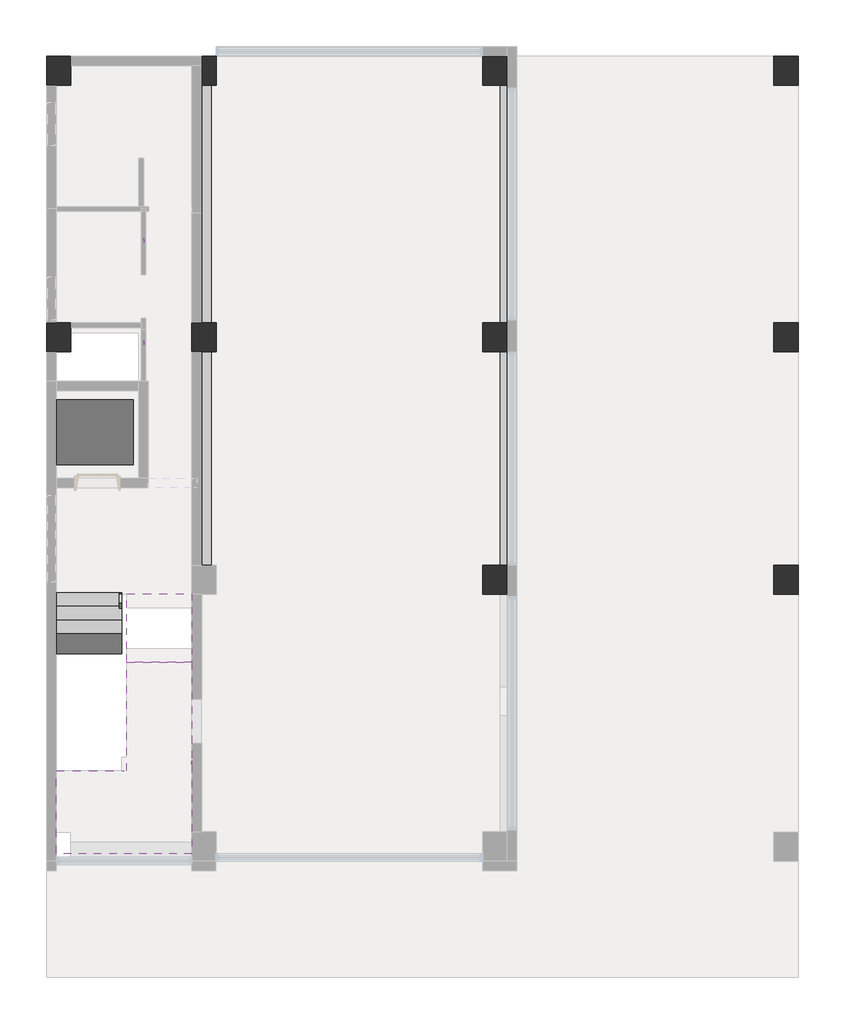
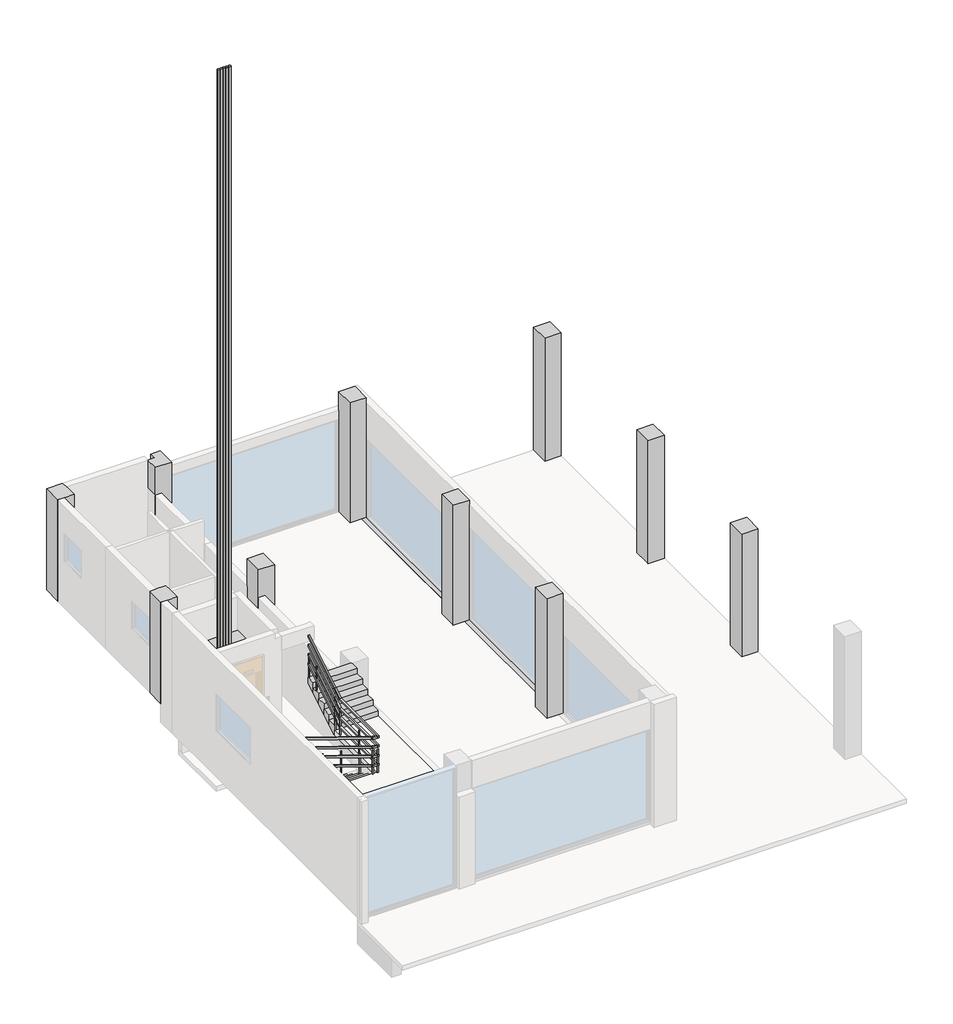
# One storey, part 2 of 2: 10 columns, 7 beams, 4 proxies, 2 stair flights, 1 railing, 1 slab.
"""IFC4 building model written with IfcOpenShell, lengths in millimetres."""

from ifc_helpers import new_model, si_unit, frame, origin, origin_with_axes, place, context, project, spatial, polyline, outline, extrude, faceted_brep, transform, mapped, element, save
from components import generic_models_01ea2401, railing_dfcb49bc

model = new_model("IFC4")

# Units and contexts
model_context = context("Model", 3, world=origin())
ifc_project = project(units=[si_unit("LENGTHUNIT", "METRE", prefix="MILLI")], contexts=[model_context])

# Site, building, storey
site = spatial("IfcSite", under=ifc_project)
building = spatial("IfcBuilding", under=site)
storey = spatial("IfcBuildingStorey", under=building, Name="1층", Elevation=0.0)

# Beams
placement = place(None, origin())
element("IfcBeam", 1, ObjectType="BM100-구조 보 : BM100-구조 보 400x900", at=placement, inside=storey, context=model_context, shape_type="SweptSolid", body=[
    extrude(outline(polyline([(0.0, 9250.0), (0.0, 9100.0), (-150.0, 9100.0), (-150.0, 8850.0), (-900.0, 8850.0), (-900.0, 9250.0), (0.0, 9250.0)])), frame((0.0, 5800.0, 0.0), z_axis=(0.0, 1.0, 0.0), x_axis=(0.0, 0.0, 1.0)), (0.0, 0.0, 1.0), 4400.0),
])
element("IfcBeam", 2, ObjectType="BM100-구조 보 : BM100-구조 보 400x900", at=placement, inside=storey, context=model_context, shape_type="SweptSolid", body=[
    extrude(outline(polyline([(-150.0, 9100.0), (-150.0, 8850.0), (-900.0, 8850.0), (-900.0, 9250.0), (0.0, 9250.0), (0.0, 9100.0), (-150.0, 9100.0)])), frame((0.0, 10800.0, 0.0), z_axis=(0.0, 1.0, 0.0), x_axis=(0.0, 0.0, 1.0)), (0.0, 0.0, 1.0), 4900.0),
])
element("IfcBeam", 3, ObjectType="BM100-구조 보 : BM100-구조 보 400x900", at=placement, inside=storey, context=model_context, shape_type="Brep", body=[
    faceted_brep([(2750.0, 5800.0, 600.0), (3150.0, 5800.0, 600.0), (3150.0, 10200.0, 600.0), (2750.0, 10200.0, 600.0), (3150.0, 5800.0, 0.0), (3150.0, 5800.0, -150.0), (3150.0, 5800.0, -300.0), (3150.0, 10200.0, -300.0), (3150.0, 10200.0, -150.0), (3150.0, 10200.0, 0.0), (2950.0, 5800.0, -300.0), (2750.0, 5800.0, -300.0), (2750.0, 10200.0, -300.0), (2950.0, 10200.0, -300.0)], [[[0, 1, 2, 3]], [[1, 4, 5, 6, 7, 8, 9, 2]], [[6, 10, 11, 12, 13, 7]], [[11, 0, 3, 12]], [[1, 0, 11, 10, 6, 5, 4]], [[3, 2, 9, 8, 7, 13, 12]]]),
])
element("IfcBeam", 4, ObjectType="BM100-구조 보 : BM100-구조 보 400x900", at=placement, inside=storey, context=model_context, shape_type="Brep", body=[
    faceted_brep([(2750.0, 10800.0, 600.0), (3150.0, 10800.0, 600.0), (3150.0, 15700.0, 600.0), (2750.0, 15700.0, 600.0), (3150.0, 10800.0, 0.0), (3150.0, 10800.0, -150.0), (3150.0, 10800.0, -300.0), (3150.0, 15700.0, -300.0), (3150.0, 15700.0, -150.0), (3150.0, 15700.0, 0.0), (2750.0, 10800.0, -300.0), (2750.0, 15700.0, -300.0)], [[[0, 1, 2, 3]], [[1, 4, 5, 6, 7, 8, 9, 2]], [[6, 10, 11, 7]], [[10, 0, 3, 11]], [[1, 0, 10, 6, 5, 4]], [[3, 2, 9, 8, 7, 11]]]),
])
element("IfcBeam", 5, ObjectType="BM100-구조 보 : BM100-구조 보 400x600", at=placement, inside=storey, context=model_context, shape_type="Brep", body=[
    faceted_brep([(8750.0, 10300.0, -600.0), (8750.0, 10300.0, -150.0), (5963.2625647, 10300.0, -150.0), (5663.2625647, 10300.0, -150.0), (3250.0, 10300.0, -150.0), (3250.0, 10300.0, -600.0), (5663.2625647, 10300.0, -600.0), (5963.2625647, 10300.0, -600.0), (8750.0, 10700.0, -600.0), (3250.0, 10700.0, -600.0), (8750.0, 10700.0, -150.0), (3250.0, 10700.0, -150.0)], [[[0, 1, 2, 3, 4, 5, 6, 7]], [[8, 0, 7, 6, 5, 9]], [[10, 8, 9, 11]], [[4, 3, 2, 1, 10, 11]], [[0, 8, 10, 1]], [[5, 4, 11, 9]]]),
])
element("IfcBeam", 6, ObjectType="BM100-구조 보 : BM100-구조 보 300x600", at=placement, inside=storey, context=model_context, shape_type="SweptSolid", body=[
    extrude(outline(polyline([(5963.2625647, 5700.0), (5663.2625647, 5700.0), (5663.2625647, 10300.0), (5963.2625647, 10300.0), (5963.2625647, 5700.0)])), frame((0.0, 0.0, -600.0), z_axis=(0.0, 0.0, 1.0), x_axis=(1.0, 0.0, 0.0)), (0.0, 0.0, 1.0), 450.0),
])
element("IfcBeam", 7, ObjectType="BM100-구조 보 : BM100-구조 보 400x600", at=placement, inside=storey, context=model_context, shape_type="Brep", body=[
    faceted_brep([(3250.0, 15900.0, -150.0), (3250.0, 15900.0, -600.0), (8750.0, 15900.0, -600.0), (8750.0, 15900.0, -150.0), (3250.0, 16100.0, -600.0), (3250.0, 16300.0, -600.0), (8750.0, 16300.0, -600.0), (8750.0, 16100.0, -600.0), (3250.0, 16300.0, -150.0), (8750.0, 16300.0, -150.0)], [[[0, 1, 2, 3]], [[1, 4, 5, 6, 7, 2]], [[5, 8, 9, 6]], [[0, 3, 9, 8]], [[5, 4, 1, 0, 8]], [[3, 2, 7, 6, 9]]]),
])

# Proxies
generic_models_shape = generic_models_01ea2401(model_context)
element("IfcBuildingElementProxy", 8, Name="EE112-승강기 리프트카 : EE112-승객용 엘리베이터 (13인승) 1600x1350", ObjectType="EE112-승강기 리프트카 : EE112-승객용 엘리베이터 (13인승) 1600x1350", at=placement, inside=storey, context=model_context, shape_type="MappedRepresentation", body=[
    mapped(generic_models_shape, transform((740.0, 8544.998526, 600.0), x_axis=(1.0, 0.0, 0.0), y_axis=(0.0, 1.0, 0.0), z_axis=(0.0, 0.0, 1.0))),
])
element("IfcBuildingElementProxy", 9, Name="600 mm Arial", ObjectType="600 mm Arial", at=placement, inside=storey, context=model_context, shape_type="SweptSolid", body=[
    extrude(outline(polyline([(10298.1810026, 2019.9073718), (10301.0329701, 2019.1519858), (10302.0966769, 2017.4408053), (10301.1871305, 2015.1592313), (10298.5664036, 2013.9876122), (10253.4590692, 2013.9876122), (10249.8208836, 2017.4408053), (10253.4590692, 2019.9073718), (10298.1810026, 2019.9073718)])), frame((1760.0, 0.0, 0.0), z_axis=(1.0, 0.0, 0.0), x_axis=(0.0, 1.0, 0.0)), (0.0, 0.0, 1.0), 10.0),
    extrude(outline(polyline([(10288.5151452, 2030.7602642), (10292.230411, 2028.2936978), (10288.7001377, 2024.8405047), (10262.3387085, 2024.8405047), (10258.7005229, 2028.2936978), (10262.3387085, 2030.7602642), (10288.5151452, 2030.7602642)])), frame((1760.0, 0.0, 0.0), z_axis=(1.0, 0.0, 0.0), x_axis=(0.0, 1.0, 0.0)), (0.0, 0.0, 1.0), 10.0),
    extrude(outline(polyline([(10276.1052326, 2009.0544793), (10292.4462355, 2004.3217548), (10298.1655866, 1993.9005115), (10292.4616516, 1982.5234736), (10279.4196813, 1978.5039408), (10279.4196813, 1965.6429093), (10289.2705312, 1966.9224406), (10301.4337871, 1970.5760422), (10305.9969351, 1969.1885986), (10303.9774338, 1964.7487789), (10279.296353, 1959.7231497), (10249.204242, 1958.7365232), (10246.0439537, 1959.7539818), (10244.8877507, 1962.2359643), (10245.8435452, 1963.9779769), (10248.7263448, 1964.6562827), (10258.7776032, 1964.7487789), (10271.5266686, 1965.1033479), (10271.5266686, 1978.8610568), (10259.3634127, 1982.5234736), (10253.76739, 1993.9005115), (10259.3634127, 2004.3217548), (10276.1052326, 2009.0544793)]), holes=[polyline([(10276.1052326, 2003.1347197), (10264.9286033, 2000.1440079), (10261.6604027, 1993.9005115), (10264.9440193, 1986.6858045), (10276.1052326, 1983.4021879), (10286.9581251, 1986.6858045), (10290.2725738, 1993.9005115), (10286.9889572, 2000.1594239), (10276.1052326, 2003.1347197)])]), frame((1760.0, 0.0, 0.0), z_axis=(1.0, 0.0, 0.0), x_axis=(0.0, 1.0, 0.0)), (0.0, 0.0, 1.0), 10.0),
    extrude(outline(polyline([(10315.9248652, 1995.241707), (10325.0974093, 1995.241707), (10327.7181361, 1994.5325691), (10328.7355948, 1992.8213886), (10327.9647928, 1990.4935665), (10325.5753065, 1989.3219475), (10315.9248652, 1989.3219475), (10315.9248652, 1956.5320294), (10314.5528376, 1953.7879742), (10311.9321107, 1952.8167636), (10309.2651357, 1953.8188062), (10308.0318525, 1956.6707737), (10308.0318525, 2031.053169), (10309.2805517, 2033.0572543), (10311.9321107, 2033.720144), (10314.5220055, 2033.0418382), (10315.9248652, 2031.1302492), (10315.9248652, 1995.241707)])), frame((1760.0, 0.0, 0.0), z_axis=(1.0, 0.0, 0.0), x_axis=(0.0, 1.0, 0.0)), (0.0, 0.0, 1.0), 10.0),
    extrude(outline(polyline([(10414.5875242, 2011.0277324), (10423.7600683, 2011.0277324), (10426.3807952, 2010.3494267), (10427.3982539, 2008.6074141), (10426.6120358, 2006.2333439), (10424.1454693, 2005.1079729), (10414.5875242, 2005.1079729), (10414.5875242, 1987.1945339), (10413.2154966, 1984.2963183), (10410.5947697, 1983.4021879), (10407.9277947, 1984.2963183), (10406.6945115, 1987.256198), (10406.6945115, 2031.1456653), (10410.5947697, 2033.720144), (10414.5875242, 2031.2844096), (10414.5875242, 2011.0277324)])), frame((1760.0, 0.0, 0.0), z_axis=(1.0, 0.0, 0.0), x_axis=(0.0, 1.0, 0.0)), (0.0, 0.0, 1.0), 10.0),
    extrude(outline(polyline([(10384.048348, 1982.4155613), (10407.6811381, 1978.1915662), (10413.6008976, 1973.5783161), (10415.5741508, 1967.9707314), (10413.6008976, 1961.8544173), (10407.6811381, 1957.1332549), (10384.048348, 1952.8167636), (10360.3076457, 1957.1332549), (10354.3994482, 1961.8467093), (10352.430049, 1967.9707314), (10354.3994482, 1973.5783161), (10360.3076457, 1978.1915662), (10384.048348, 1982.4155613)]), holes=[polyline([(10384.048348, 1976.4958018), (10365.5645155, 1973.9521551), (10360.3230618, 1968.0169795), (10365.5645155, 1961.4343302), (10384.048348, 1958.7365232), (10402.331772, 1961.4343302), (10407.6811381, 1968.0169795), (10402.331772, 1973.9521551), (10384.048348, 1976.4958018)])]), frame((1760.0, 0.0, 0.0), z_axis=(1.0, 0.0, 0.0), x_axis=(0.0, 1.0, 0.0)), (0.0, 0.0, 1.0), 10.0),
    extrude(outline(polyline([(10395.9803634, 2031.7468908), (10399.3564762, 2029.3265725), (10395.9803634, 2025.8271313), (10378.0823404, 2025.8271313), (10378.0823404, 2023.8692942), (10379.7742508, 2014.4886335), (10384.8499821, 2006.7266571), (10399.5723008, 1997.2149602), (10401.7767946, 1995.7196043), (10401.5301379, 1993.2222057), (10399.279396, 1991.3568648), (10395.9186992, 1991.5726894), (10381.7976061, 2000.2981683), (10373.9970897, 2011.4285495), (10366.5973902, 1999.7431908), (10351.5821668, 1990.3239901), (10348.6531191, 1990.4627344), (10346.6336178, 1992.3434914), (10346.3869612, 1994.7175616), (10348.591455, 1996.2283336), (10363.853335, 2006.3875043), (10368.6053295, 2014.1726047), (10370.1893277, 2023.6534696), (10370.1893277, 2025.8271313), (10352.2913047, 2025.8271313), (10348.7301993, 2029.3265725), (10352.3838009, 2031.7468908), (10395.9803634, 2031.7468908)])), frame((1760.0, 0.0, 0.0), z_axis=(1.0, 0.0, 0.0), x_axis=(0.0, 1.0, 0.0)), (0.0, 0.0, 1.0), 10.0),
    extrude(outline(polyline([(10516.210063, 1994.9488022), (10514.8380354, 1992.1739149), (10512.2635567, 1991.2952006), (10509.5503335, 1992.189331), (10508.3170503, 1994.9488022), (10508.3170503, 2031.053169), (10509.5503335, 2033.0572543), (10512.2635567, 2033.720144), (10514.8226194, 2033.0572543), (10516.210063, 2031.1610813), (10516.210063, 1994.9488022)])), frame((1760.0, 0.0, 0.0), z_axis=(1.0, 0.0, 0.0), x_axis=(0.0, 1.0, 0.0)), (0.0, 0.0, 1.0), 10.0),
    extrude(outline(polyline([(10506.5442056, 1987.3486943), (10513.6510003, 1985.4525213), (10516.210063, 1980.2264836), (10516.210063, 1976.1412328), (10513.7589126, 1970.6377064), (10507.5924964, 1968.6027891), (10462.4234978, 1968.6027891), (10460.3577484, 1968.1094758), (10459.9723474, 1966.3674632), (10459.9723474, 1962.4363729), (10460.4194125, 1960.3243753), (10462.3001695, 1959.7231497), (10514.2676419, 1959.7231497), (10518.1679002, 1957.3028314), (10517.2737698, 1954.9133451), (10514.6376269, 1953.8033902), (10460.3885805, 1953.8033902), (10454.484237, 1955.9462198), (10452.0793346, 1961.7888992), (10452.0793346, 1967.5236662), (10454.3917407, 1972.6417917), (10460.2344201, 1974.5225486), (10505.6809074, 1974.5225486), (10507.7466568, 1975.0775261), (10508.3170503, 1976.942867), (10508.3170503, 1979.4402655), (10507.8545691, 1980.9664535), (10505.6038272, 1981.4289347), (10455.9179287, 1981.4289347), (10452.0793346, 1984.8975438), (10455.9333448, 1987.3486943), (10506.5442056, 1987.3486943)])), frame((1760.0, 0.0, 0.0), z_axis=(1.0, 0.0, 0.0), x_axis=(0.0, 1.0, 0.0)), (0.0, 0.0, 1.0), 10.0),
    extrude(outline(polyline([(10465.8921069, 2028.8949233), (10467.1562222, 2031.0840011), (10469.7923652, 2031.7468908), (10472.397676, 2031.0840011), (10473.7851196, 2028.8949233), (10473.0297337, 2023.1909884), (10471.3493852, 2017.7491261), (10484.9000848, 2008.576582), (10495.5371527, 1996.4749902), (10496.2925387, 1994.3167446), (10494.8280149, 1991.8347621), (10492.1302078, 1991.1872884), (10489.3399045, 1992.8984688), (10479.7511273, 2004.1367623), (10468.9444829, 2012.2610157), (10461.5139514, 2001.346459), (10449.551104, 1990.1389976), (10446.498728, 1989.3681956), (10444.217154, 1990.8173034), (10443.5696803, 1993.3147019), (10445.5429335, 1995.226291), (10461.1439664, 2012.9547375), (10465.8921069, 2028.8949233)])), frame((1760.0, 0.0, 0.0), z_axis=(1.0, 0.0, 0.0), x_axis=(0.0, 1.0, 0.0)), (0.0, 0.0, 1.0), 10.0),
    extrude(outline(polyline([(10557.0163222, 2037.3429135), (10559.7603774, 2038.5761968), (10562.4736005, 2038.0982995), (10564.1539489, 2036.387119), (10563.5373073, 2033.4580713), (10553.8252018, 2014.5888378), (10550.7419937, 1993.7463511), (10553.547713, 1972.379719), (10563.3831469, 1954.0654629), (10564.4622697, 1951.3984879), (10563.0748261, 1948.6544327), (10560.1611944, 1947.636974), (10557.0934024, 1949.3173224), (10545.9784372, 1969.9902327), (10542.848981, 1993.7463511), (10546.1788457, 2016.1612739), (10557.0163222, 2037.3429135)])), frame((1760.0, 0.0, 0.0), z_axis=(1.0, 0.0, 0.0), x_axis=(0.0, 1.0, 0.0)), (0.0, 0.0, 1.0), 10.0),
    extrude(outline(polyline([(10605.1452005, 2030.7602642), (10614.9536563, 2028.1433914), (10622.1490932, 2020.2927728), (10625.7911953, 2010.6850422), (10626.8201534, 2012.3226798), (10629.8262813, 2013.0009856), (10644.4715198, 2013.0009856), (10644.4715198, 2030.9144247), (10645.689387, 2032.964758), (10648.4180261, 2033.720144), (10651.0079209, 2033.0572543), (10652.3645325, 2030.9452567), (10652.3645325, 1956.76327), (10651.038753, 1953.8342223), (10648.4180261, 1952.8167636), (10645.6585549, 1953.8496383), (10644.4715198, 1956.7941021), (10644.4715198, 1980.4423081), (10629.6567049, 1980.4423081), (10626.2490044, 1982.5860838), (10622.1490932, 1971.7630774), (10614.8149119, 1963.4731016), (10605.1452005, 1960.7097763), (10595.3020587, 1963.4731016), (10587.8484031, 1971.7630774), (10583.6976342, 1982.7354442), (10582.3140446, 1996.1358373), (10583.6976342, 2009.328114), (10587.8484031, 2020.2927728), (10595.1633143, 2028.1433914), (10605.1452005, 2030.7602642)]), holes=[polyline([(10626.600073, 1985.5355204), (10629.6567049, 1986.3620677), (10644.4715198, 1986.3620677), (10644.4715198, 2007.0812261), (10629.9187776, 2007.0812261), (10626.3252322, 2009.1815595), (10627.6988677, 1996.1358373), (10626.600073, 1985.5355204)]), polyline([(10605.0989524, 2024.8405047), (10598.8053539, 2022.7516312), (10594.0148193, 2016.4850108), (10590.2070573, 1996.1820855), (10594.0148193, 1975.6325035), (10598.9363902, 1968.8802778), (10605.0989524, 1966.6295359), (10611.1112082, 1968.8802778), (10615.982677, 1975.6325035), (10619.805855, 1996.1820855), (10615.982677, 2016.4850108), (10611.2422445, 2022.7516312), (10605.0989524, 2024.8405047)])]), frame((1760.0, 0.0, 0.0), z_axis=(1.0, 0.0, 0.0), x_axis=(0.0, 1.0, 0.0)), (0.0, 0.0, 1.0), 10.0),
    extrude(outline(polyline([(10683.5203503, 2037.3429135), (10694.2961626, 2016.1612739), (10697.7493556, 1993.7463511), (10694.4965711, 1969.9902327), (10683.4741022, 1949.3173224), (10680.3138139, 1947.636974), (10677.3847662, 1948.6544327), (10676.0127386, 1951.3984879), (10677.1997737, 1954.0654629), (10686.9272952, 1972.379719), (10689.8563429, 1993.7463511), (10686.6498065, 2014.5888378), (10677.0301972, 2033.4426553), (10676.3056433, 2036.387119), (10678.0014078, 2038.0982995), (10680.6837988, 2038.5761968), (10683.5203503, 2037.3429135)])), frame((1760.0, 0.0, 0.0), z_axis=(1.0, 0.0, 0.0), x_axis=(0.0, 1.0, 0.0)), (0.0, 0.0, 1.0), 10.0),
])
element("IfcBuildingElementProxy", 10, Name="600 mm Arial", ObjectType="600 mm Arial", at=placement, inside=storey, context=model_context, shape_type="SweptSolid", body=[
    extrude(outline(polyline([(12413.9709302, 2018.2547444), (12416.8228977, 2017.4993584), (12417.8866044, 2015.788178), (12416.9770581, 2013.506604), (12414.3563312, 2012.3349849), (12369.2489967, 2012.3349849), (12365.6108112, 2015.788178), (12369.2489967, 2018.2547444), (12413.9709302, 2018.2547444)])), frame((1760.0, 0.0, 0.0), z_axis=(1.0, 0.0, 0.0), x_axis=(0.0, 1.0, 0.0)), (0.0, 0.0, 1.0), 10.0),
    extrude(outline(polyline([(12404.3050728, 2029.1076369), (12408.0203385, 2026.6410704), (12404.4900653, 2023.1878774), (12378.1286361, 2023.1878774), (12374.4904505, 2026.6410704), (12378.1286361, 2029.1076369), (12404.3050728, 2029.1076369)])), frame((1760.0, 0.0, 0.0), z_axis=(1.0, 0.0, 0.0), x_axis=(0.0, 1.0, 0.0)), (0.0, 0.0, 1.0), 10.0),
    extrude(outline(polyline([(12391.8951602, 2007.4018519), (12408.2361631, 2002.6691275), (12413.9555141, 1992.2478841), (12408.2515791, 1980.8708463), (12395.2096089, 1976.8513135), (12395.2096089, 1963.990282), (12405.0604588, 1965.2698133), (12417.2237147, 1968.9234149), (12421.7868627, 1967.5359713), (12419.7673614, 1963.0961516), (12395.0862806, 1958.0705224), (12364.9941696, 1957.0838958), (12361.8338813, 1958.1013545), (12360.6776782, 1960.583337), (12361.6334728, 1962.3253496), (12364.5162723, 1963.0036554), (12374.5675307, 1963.0961516), (12387.3165962, 1963.4507205), (12387.3165962, 1977.2084294), (12375.1533403, 1980.8708463), (12369.5573176, 1992.2478841), (12375.1533403, 2002.6691275), (12391.8951602, 2007.4018519)]), holes=[polyline([(12391.8951602, 2001.4820924), (12380.7185309, 1998.4913805), (12377.4503303, 1992.2478841), (12380.7339469, 1985.0331772), (12391.8951602, 1981.7495606), (12402.7480527, 1985.0331772), (12406.0625014, 1992.2478841), (12402.7788848, 1998.5067966), (12391.8951602, 2001.4820924)])]), frame((1760.0, 0.0, 0.0), z_axis=(1.0, 0.0, 0.0), x_axis=(0.0, 1.0, 0.0)), (0.0, 0.0, 1.0), 10.0),
    extrude(outline(polyline([(12431.7147927, 1993.5890797), (12440.8873368, 1993.5890797), (12443.5080637, 1992.8799418), (12444.5255224, 1991.1687613), (12443.7547204, 1988.8409392), (12441.3652341, 1987.6693201), (12431.7147927, 1987.6693201), (12431.7147927, 1954.879402), (12430.3427651, 1952.1353468), (12427.7220383, 1951.1641363), (12425.0550633, 1952.1661789), (12423.82178, 1955.0181464), (12423.82178, 2029.4005417), (12425.0704793, 2031.404627), (12427.7220383, 2032.0675167), (12430.3119331, 2031.3892109), (12431.7147927, 2029.4776219), (12431.7147927, 1993.5890797)])), frame((1760.0, 0.0, 0.0), z_axis=(1.0, 0.0, 0.0), x_axis=(0.0, 1.0, 0.0)), (0.0, 0.0, 1.0), 10.0),
    extrude(outline(polyline([(12530.3774518, 2009.3751051), (12539.5499959, 2009.3751051), (12542.1707227, 2008.6967993), (12543.1881814, 2006.9547868), (12542.4019633, 2004.5807165), (12539.9353969, 2003.4553456), (12530.3774518, 2003.4553456), (12530.3774518, 1985.5419065), (12529.0054242, 1982.6436909), (12526.3846973, 1981.7495606), (12523.7177223, 1982.6436909), (12522.4844391, 1985.6035707), (12522.4844391, 2029.4930379), (12526.3846973, 2032.0675167), (12530.3774518, 2029.6317823), (12530.3774518, 2009.3751051)])), frame((1760.0, 0.0, 0.0), z_axis=(1.0, 0.0, 0.0), x_axis=(0.0, 1.0, 0.0)), (0.0, 0.0, 1.0), 10.0),
    extrude(outline(polyline([(12499.8382756, 1980.762934), (12523.4710656, 1976.5389389), (12529.3908252, 1971.9256888), (12531.3640784, 1966.3181041), (12529.3908252, 1960.20179), (12523.4710656, 1955.4806276), (12499.8382756, 1951.1641363), (12476.0975733, 1955.4806276), (12470.1893758, 1960.194082), (12468.2199766, 1966.3181041), (12470.1893758, 1971.9256888), (12476.0975733, 1976.5389389), (12499.8382756, 1980.762934)]), holes=[polyline([(12499.8382756, 1974.8431745), (12481.3544431, 1972.2995278), (12476.1129893, 1966.3643522), (12481.3544431, 1959.7817029), (12499.8382756, 1957.0838958), (12518.1216996, 1959.7817029), (12523.4710656, 1966.3643522), (12518.1216996, 1972.2995278), (12499.8382756, 1974.8431745)])]), frame((1760.0, 0.0, 0.0), z_axis=(1.0, 0.0, 0.0), x_axis=(0.0, 1.0, 0.0)), (0.0, 0.0, 1.0), 10.0),
    extrude(outline(polyline([(12511.7702909, 2030.0942635), (12515.1464038, 2027.6739452), (12511.7702909, 2024.174504), (12493.8722679, 2024.174504), (12493.8722679, 2022.2166668), (12495.5641784, 2012.8360062), (12500.6399097, 2005.0740298), (12515.3622284, 1995.5623328), (12517.5667221, 1994.0669769), (12517.3200655, 1991.5695784), (12515.0693236, 1989.7042375), (12511.7086268, 1989.920062), (12497.5875337, 1998.6455409), (12489.7870172, 2009.7759222), (12482.3873178, 1998.0905635), (12467.3720944, 1988.6713628), (12464.4430467, 1988.8101071), (12462.4235454, 1990.6908641), (12462.1768887, 1993.0649343), (12464.3813825, 1994.5757063), (12479.6432626, 2004.7348769), (12484.3952571, 2012.5199774), (12485.9792552, 2022.0008423), (12485.9792552, 2024.174504), (12468.0812322, 2024.174504), (12464.5201269, 2027.6739452), (12468.1737285, 2030.0942635), (12511.7702909, 2030.0942635)])), frame((1760.0, 0.0, 0.0), z_axis=(1.0, 0.0, 0.0), x_axis=(0.0, 1.0, 0.0)), (0.0, 0.0, 1.0), 10.0),
    extrude(outline(polyline([(12631.9999906, 1993.2961749), (12630.627963, 1990.5212876), (12628.0534842, 1989.6425733), (12625.3402611, 1990.5367037), (12624.1069779, 1993.2961749), (12624.1069779, 2029.4005417), (12625.3402611, 2031.404627), (12628.0534842, 2032.0675167), (12630.6125469, 2031.404627), (12631.9999906, 2029.508454), (12631.9999906, 1993.2961749)])), frame((1760.0, 0.0, 0.0), z_axis=(1.0, 0.0, 0.0), x_axis=(0.0, 1.0, 0.0)), (0.0, 0.0, 1.0), 10.0),
    extrude(outline(polyline([(12622.3341332, 1985.6960669), (12629.4409279, 1983.799894), (12631.9999906, 1978.5738562), (12631.9999906, 1974.4886055), (12629.5488401, 1968.9850791), (12623.382424, 1966.9501617), (12578.2134254, 1966.9501617), (12576.1476759, 1966.4568484), (12575.7622749, 1964.7148359), (12575.7622749, 1960.7837455), (12576.2093401, 1958.671748), (12578.090097, 1958.0705224), (12630.0575695, 1958.0705224), (12633.9578277, 1955.6502041), (12633.0636974, 1953.2607178), (12630.4275545, 1952.1507629), (12576.178508, 1952.1507629), (12570.2741645, 1954.2935925), (12567.8692622, 1960.1362718), (12567.8692622, 1965.8710389), (12570.1816683, 1970.9891643), (12576.0243476, 1972.8699213), (12621.4708349, 1972.8699213), (12623.5365844, 1973.4248987), (12624.1069779, 1975.2902396), (12624.1069779, 1977.7876382), (12623.6444966, 1979.3138262), (12621.3937547, 1979.7763074), (12571.7078563, 1979.7763074), (12567.8692622, 1983.2449165), (12571.7232723, 1985.6960669), (12622.3341332, 1985.6960669)])), frame((1760.0, 0.0, 0.0), z_axis=(1.0, 0.0, 0.0), x_axis=(0.0, 1.0, 0.0)), (0.0, 0.0, 1.0), 10.0),
    extrude(outline(polyline([(12581.6820345, 2027.242296), (12582.9461498, 2029.4313738), (12585.5822927, 2030.0942635), (12588.1876036, 2029.4313738), (12589.5750472, 2027.242296), (12588.8196612, 2021.538361), (12587.1393128, 2016.0964988), (12600.6900124, 2006.9239547), (12611.3270803, 1994.8223629), (12612.0824663, 1992.6641172), (12610.6179424, 1990.1821347), (12607.9201354, 1989.534661), (12605.129832, 1991.2458415), (12595.5410549, 2002.484135), (12584.7344105, 2010.6083884), (12577.303879, 1999.6938317), (12565.3410316, 1988.4863703), (12562.2886556, 1987.7155682), (12560.0070816, 1989.1646761), (12559.3596079, 1991.6620746), (12561.332861, 1993.5736636), (12576.933894, 2011.3021102), (12581.6820345, 2027.242296)])), frame((1760.0, 0.0, 0.0), z_axis=(1.0, 0.0, 0.0), x_axis=(0.0, 1.0, 0.0)), (0.0, 0.0, 1.0), 10.0),
    extrude(outline(polyline([(12672.8062497, 2035.6902862), (12675.5503049, 2036.9235694), (12678.263528, 2036.4456722), (12679.9438765, 2034.7344917), (12679.3272348, 2031.805444), (12669.6151293, 2012.9362105), (12666.5319212, 1992.0937237), (12669.3376406, 1970.7270916), (12679.1730744, 1952.4128356), (12680.2521973, 1949.7458606), (12678.8647536, 1947.0018054), (12675.951122, 1945.9843467), (12672.8833299, 1947.6646951), (12661.7683647, 1968.3376054), (12658.6389085, 1992.0937237), (12661.9687733, 2014.5086466), (12672.8062497, 2035.6902862)])), frame((1760.0, 0.0, 0.0), z_axis=(1.0, 0.0, 0.0), x_axis=(0.0, 1.0, 0.0)), (0.0, 0.0, 1.0), 10.0),
    extrude(outline(polyline([(12699.0905987, 2027.2577121), (12700.323882, 2029.3388775), (12702.990857, 2030.0942635), (12705.5961678, 2029.4313738), (12706.9836114, 2027.3502083), (12706.9836114, 2003.0082804), (12708.1243984, 1998.9538618), (12711.9629925, 1997.535586), (12730.5547373, 1998.2138918), (12748.3756801, 2000.4492177), (12751.6747128, 2000.4029696), (12753.3088131, 1998.9076136), (12753.0159083, 1996.4718792), (12750.5030937, 1994.6065383), (12731.55678, 1992.3095483), (12709.9434912, 1991.6158265), (12701.9425662, 1994.9456912), (12699.0905987, 2002.9003681), (12699.0905987, 2027.2577121)])), frame((1760.0, 0.0, 0.0), z_axis=(1.0, 0.0, 0.0), x_axis=(0.0, 1.0, 0.0)), (0.0, 0.0, 1.0), 10.0),
    extrude(outline(polyline([(12765.1945803, 2009.3751051), (12774.5675329, 2009.3751051), (12778.0207259, 2006.9547868), (12774.5675329, 2003.4553456), (12765.1945803, 2003.4553456), (12765.1945803, 1991.5233302), (12763.8379687, 1988.6559467), (12761.2018258, 1987.6693201), (12758.5348508, 1988.6559467), (12757.3015675, 1991.4924982), (12757.3015675, 2029.508454), (12761.2018258, 2032.0675167), (12765.1945803, 2029.5392861), (12765.1945803, 2009.3751051)])), frame((1760.0, 0.0, 0.0), z_axis=(1.0, 0.0, 0.0), x_axis=(0.0, 1.0, 0.0)), (0.0, 0.0, 1.0), 10.0),
    extrude(outline(polyline([(12755.574971, 1981.7495606), (12762.5121892, 1979.9150518), (12765.1945803, 1975.0127509), (12765.1945803, 1961.5391315), (12762.5430213, 1955.1877228), (12755.960372, 1953.1373895), (12714.0287419, 1953.1373895), (12706.3207217, 1955.5114597), (12704.0237317, 1962.0170288), (12704.0237317, 1974.6273499), (12706.428634, 1979.7300593), (12712.7800427, 1981.7495606), (12755.574971, 1981.7495606)]), holes=[polyline([(12757.3015675, 1973.5482271), (12756.6540938, 1975.3364877), (12754.0179509, 1975.829801), (12714.81496, 1975.829801), (12712.3483935, 1975.2285755), (12711.9167444, 1973.3632346), (12711.9167444, 1962.5103421), (12712.5025539, 1959.827951), (12715.200361, 1959.057149), (12754.2029434, 1959.057149), (12756.6540938, 1959.7354548), (12757.3015675, 1962.1249411), (12757.3015675, 1973.5482271)])]), frame((1760.0, 0.0, 0.0), z_axis=(1.0, 0.0, 0.0), x_axis=(0.0, 1.0, 0.0)), (0.0, 0.0, 1.0), 10.0),
    extrude(outline(polyline([(12799.3102778, 2035.6902862), (12810.0860901, 2014.5086466), (12813.5392832, 1992.0937237), (12810.2864987, 1968.3376054), (12799.2640297, 1947.6646951), (12796.1037414, 1945.9843467), (12793.1746937, 1947.0018054), (12791.8026661, 1949.7458606), (12792.9897012, 1952.4128356), (12802.7172228, 1970.7270916), (12805.6462705, 1992.0937237), (12802.4397341, 2012.9362105), (12792.8201248, 2031.790028), (12792.0955709, 2034.7344917), (12793.7913353, 2036.4456722), (12796.4737264, 2036.9235694), (12799.3102778, 2035.6902862)])), frame((1760.0, 0.0, 0.0), z_axis=(1.0, 0.0, 0.0), x_axis=(0.0, 1.0, 0.0)), (0.0, 0.0, 1.0), 10.0),
])
element("IfcBuildingElementProxy", 11, Name="600 mm Arial", ObjectType="600 mm Arial", at=placement, inside=storey, context=model_context, shape_type="SweptSolid", body=[
    extrude(outline(polyline([(1693.0107221, 1309.3367163), (1694.3056695, 1315.1485636), (1726.6639385, 1315.1485636), (1726.6639385, 1327.9747092), (1703.4782136, 1328.9459198), (1704.6035846, 1334.8810954), (1748.4622197, 1336.4689475), (1747.2597686, 1345.7339879), (1711.4637226, 1345.7339879), (1706.5691297, 1346.8208187), (1705.2818904, 1351.0525218), (1705.2818904, 1364.0944921), (1706.5691297, 1368.3261952), (1711.4637226, 1369.413026), (1757.7272601, 1368.4572315), (1756.6173051, 1362.5066399), (1714.9014996, 1361.2271085), (1716.181031, 1352.640374), (1751.8999968, 1352.640374), (1754.9832048, 1352.4322575), (1756.8716698, 1351.5920832), (1757.8197563, 1349.9040268), (1758.081829, 1347.1676796), (1758.081829, 1333.6169801), (1757.8197563, 1330.8806329), (1756.8716698, 1329.1540363), (1754.9832048, 1328.2290739), (1751.8999968, 1327.9747092), (1736.5302044, 1327.9747092), (1736.5302044, 1315.1485636), (1770.260501, 1313.9769445), (1769.0580498, 1308.2421774), (1693.0107221, 1309.3367163)])), frame((2730.0, 0.0, 0.0), z_axis=(1.0, 0.0, 0.0), x_axis=(0.0, 1.0, 0.0)), (0.0, 0.0, 1.0), 10.0),
    extrude(outline(polyline([(1596.583389, 1296.4951546), (1597.6933439, 1374.346159), (1606.4496549, 1373.2670362), (1605.3397, 1295.4160318), (1596.583389, 1296.4951546)])), frame((2730.0, 0.0, 0.0), z_axis=(1.0, 0.0, 0.0), x_axis=(0.0, 1.0, 0.0)), (0.0, 0.0, 1.0), 10.0),
    extrude(outline(polyline([(1620.1082667, 1323.7198821), (1621.3107179, 1370.3996526), (1630.0516129, 1369.2434496), (1630.0516129, 1349.6804942), (1649.0287587, 1349.6804942), (1650.2312098, 1370.3996526), (1658.8950246, 1369.39761), (1658.8950246, 1323.9973708), (1657.522997, 1319.3725587), (1652.3740395, 1318.1084433), (1626.6292519, 1318.1084433), (1621.5188344, 1319.5344271), (1620.1082667, 1323.7198821)]), holes=[polyline([(1630.0516129, 1342.7741081), (1630.0516129, 1326.4947694), (1631.6086329, 1325.0148295), (1647.4871546, 1325.0148295), (1649.0287587, 1326.4947694), (1649.0287587, 1342.7741081), (1630.0516129, 1342.7741081)])]), frame((2730.0, 0.0, 0.0), z_axis=(1.0, 0.0, 0.0), x_axis=(0.0, 1.0, 0.0)), (0.0, 0.0, 1.0), 10.0),
])

# Columns
element("IfcColumn", 12, ObjectType="CL100-구조 기둥 : CL100-구조 기둥_500x600", at=placement, inside=storey, context=model_context, shape_type="Brep", body=[
    faceted_brep([(-250.0, 10200.0, 600.0), (-250.0, 10800.0, 600.0), (-50.0, 10800.0, 600.0), (250.0, 10800.0, 600.0), (250.0, 10700.0, 600.0), (250.0, 10200.0, 600.0), (-250.0, 10200.0, 3900.0), (-250.0, 10800.0, 3900.0), (-50.0, 10800.0, 3900.0), (250.0, 10800.0, 3900.0), (250.0, 10800.0, 3750.0), (250.0, 10600.0, 3900.0), (250.0, 10200.0, 3900.0), (-50.0, 10200.0, 3900.0)], [[[0, 1, 2, 3, 4, 5]], [[6, 7, 1, 0]], [[7, 8, 9, 10, 3, 2, 1]], [[9, 11, 12, 5, 4, 3, 10]], [[12, 13, 6, 0, 5]], [[6, 13, 12, 11, 9, 8, 7]]]),
])
element("IfcColumn", 13, ObjectType="CL100-구조 기둥 : CL100-구조 기둥_500x600", at=placement, inside=storey, context=model_context, shape_type="Brep", body=[
    faceted_brep([(2750.0, 10200.0, 600.0), (2750.0, 10800.0, 600.0), (3250.0, 10800.0, 600.0), (3250.0, 10200.0, 600.0), (2750.0, 10200.0, 3900.0), (2750.0, 10800.0, 3900.0), (2750.0, 10800.0, 3750.0), (2750.0, 10800.0, 2850.0), (2750.0, 10200.0, 2850.0), (2750.0, 10200.0, 3750.0), (3250.0, 10800.0, 3900.0), (3250.0, 10800.0, 3750.0), (3250.0, 10200.0, 3900.0), (3250.0, 10200.0, 3750.0)], [[[0, 1, 2, 3]], [[4, 5, 6, 7, 1, 0, 8, 9]], [[5, 10, 11, 2, 1, 7, 6]], [[10, 12, 13, 3, 2, 11]], [[12, 4, 9, 8, 0, 3, 13]], [[4, 12, 10, 5]]]),
])
element("IfcColumn", 14, ObjectType="CL100-구조 기둥 : CL100-구조 기둥_500x600", at=placement, inside=storey, context=model_context, shape_type="Brep", body=[
    faceted_brep([(8750.0, 5200.0, 0.0), (8750.0, 5800.0, 0.0), (9250.0, 5800.0, 0.0), (9250.0, 5200.0, 0.0), (8750.0, 5200.0, 3900.0), (8750.0, 5800.0, 3900.0), (8750.0, 5800.0, 3750.0), (8750.0, 5200.0, 3750.0), (9250.0, 5800.0, 3900.0), (9250.0, 5800.0, 3750.0), (9250.0, 5200.0, 3900.0), (9250.0, 5200.0, 3750.0)], [[[0, 1, 2, 3]], [[4, 5, 6, 1, 0, 7]], [[5, 8, 9, 2, 1, 6]], [[8, 10, 11, 3, 2, 9]], [[10, 4, 7, 0, 3, 11]], [[4, 10, 8, 5]]]),
])
element("IfcColumn", 15, ObjectType="CL100-구조 기둥 : CL100-구조 기둥_500x600", at=placement, inside=storey, context=model_context, shape_type="Brep", body=[
    faceted_brep([(8750.0, 10200.0, 0.0), (8750.0, 10800.0, 0.0), (9250.0, 10800.0, 0.0), (9250.0, 10200.0, 0.0), (8750.0, 10200.0, 3900.0), (8750.0, 10800.0, 3900.0), (8750.0, 10800.0, 3750.0), (8750.0, 10200.0, 3750.0), (9250.0, 10800.0, 3900.0), (9250.0, 10800.0, 3750.0), (9250.0, 10200.0, 3900.0), (9250.0, 10200.0, 3750.0)], [[[0, 1, 2, 3]], [[4, 5, 6, 1, 0, 7]], [[5, 8, 9, 2, 1, 6]], [[8, 10, 11, 3, 2, 9]], [[10, 4, 7, 0, 3, 11]], [[4, 10, 8, 5]]]),
])
element("IfcColumn", 16, ObjectType="CL100-구조 기둥 : CL100-구조 기둥_500x600", at=placement, inside=storey, context=model_context, shape_type="Brep", body=[
    faceted_brep([(14750.0, 5200.0, 3900.0), (14750.0, 5800.0, 3900.0), (14750.0, 5800.0, 3750.0), (14750.0, 5800.0, -100.0), (14750.0, 5200.0, -100.0), (14750.0, 5200.0, 3750.0), (15250.0, 5800.0, 3900.0), (15250.0, 5800.0, 3750.0), (15250.0, 5800.0, -100.0), (15250.0, 5200.0, 3900.0), (15250.0, 5200.0, 3750.0), (15250.0, 5200.0, -100.0)], [[[0, 1, 2, 3, 4, 5]], [[1, 6, 7, 8, 3, 2]], [[6, 9, 10, 11, 8, 7]], [[9, 0, 5, 4, 11, 10]], [[1, 0, 9, 6]], [[4, 3, 8, 11]]]),
])
element("IfcColumn", 17, ObjectType="CL100-구조 기둥 : CL100-구조 기둥_500x600", at=placement, inside=storey, context=model_context, shape_type="Brep", body=[
    faceted_brep([(14750.0, 10200.0, 3900.0), (14750.0, 10800.0, 3900.0), (14750.0, 10800.0, 3750.0), (14750.0, 10800.0, -100.0), (14750.0, 10200.0, -100.0), (14750.0, 10200.0, 3750.0), (15250.0, 10800.0, 3900.0), (15250.0, 10800.0, 3750.0), (15250.0, 10800.0, -100.0), (15250.0, 10200.0, 3900.0), (15250.0, 10200.0, 3750.0), (15250.0, 10200.0, -100.0)], [[[0, 1, 2, 3, 4, 5]], [[1, 6, 7, 8, 3, 2]], [[6, 9, 10, 11, 8, 7]], [[9, 0, 5, 4, 11, 10]], [[1, 0, 9, 6]], [[4, 3, 8, 11]]]),
])
element("IfcColumn", 18, ObjectType="CL100-구조 기둥 : CL100-구조 기둥_500x600", at=placement, inside=storey, context=model_context, shape_type="Brep", body=[
    faceted_brep([(3250.0, 16300.0, 600.0), (3250.0, 15700.0, 600.0), (2750.0, 15700.0, 600.0), (2750.0, 16100.0, 600.0), (2950.0, 16100.0, 600.0), (2950.0, 16300.0, 600.0), (2750.0, 15700.0, 2850.0), (2750.0, 15700.0, 3750.0), (2750.0, 15700.0, 3900.0), (2750.0, 16100.0, 3900.0), (2750.0, 16100.0, 3750.0), (3250.0, 16300.0, 3900.0), (3250.0, 16300.0, 3750.0), (3250.0, 16300.0, 3150.0), (2950.0, 16300.0, 3750.0), (2950.0, 16300.0, 3900.0), (3250.0, 16100.0, 3900.0), (3250.0, 15700.0, 3900.0), (3250.0, 15700.0, 3750.0), (2950.0, 16100.0, 3900.0), (2950.0, 16100.0, 3750.0)], [[[0, 1, 2, 3, 4, 5]], [[2, 6, 7, 8, 9, 10, 3]], [[11, 12, 13, 0, 5, 14, 15]], [[1, 0, 13, 12, 11, 16, 17, 18]], [[2, 1, 18, 17, 8, 7, 6]], [[17, 16, 11, 15, 19, 9, 8]], [[19, 20, 4, 3, 10, 9]], [[4, 20, 19, 15, 14, 5]]]),
])
element("IfcColumn", 19, ObjectType="CL100-구조 기둥 : CL100-구조 기둥_500x600", at=placement, inside=storey, context=model_context, shape_type="SweptSolid", body=[
    extrude(outline(polyline([(8750.0, 15700.0), (8750.0, 16300.0), (9250.0, 16300.0), (9250.0, 15700.0), (8750.0, 15700.0)])), origin_with_axes(), (0.0, 0.0, 1.0), 3900.0),
])
element("IfcColumn", 20, ObjectType="CL100-구조 기둥 : CL100-구조 기둥_500x600", at=placement, inside=storey, context=model_context, shape_type="Brep", body=[
    faceted_brep([(14750.0, 15700.0, 3900.0), (14750.0, 16300.0, 3900.0), (14750.0, 16300.0, 3750.0), (14750.0, 16300.0, 3150.0), (14750.0, 16300.0, -100.0), (14750.0, 15700.0, -100.0), (14750.0, 15700.0, 3750.0), (15250.0, 16300.0, 3900.0), (15250.0, 16300.0, 3750.0), (15250.0, 16300.0, 50.0), (15250.0, 16300.0, -100.0), (15250.0, 15700.0, 3900.0), (15250.0, 15700.0, 3750.0), (15250.0, 15700.0, -100.0)], [[[0, 1, 2, 3, 4, 5, 6]], [[1, 7, 8, 9, 10, 4, 3, 2]], [[7, 11, 12, 13, 10, 9, 8]], [[11, 0, 6, 5, 13, 12]], [[1, 0, 11, 7]], [[5, 4, 10, 13]]]),
])
element("IfcColumn", 21, ObjectType="CL100-구조 기둥 : CL100-구조 기둥_500x600", at=placement, inside=storey, context=model_context, shape_type="Brep", body=[
    faceted_brep([(-250.0, 15700.0, 600.0), (-250.0, 16300.0, 600.0), (250.0, 16300.0, 600.0), (250.0, 16100.0, 600.0), (250.0, 15700.0, 600.0), (-50.0, 15700.0, 600.0), (-250.0, 15700.0, 3900.0), (-250.0, 16300.0, 3900.0), (250.0, 16300.0, 3900.0), (250.0, 16100.0, 3900.0), (250.0, 15700.0, 3900.0), (250.0, 15700.0, 3750.0), (-50.0, 15700.0, 3900.0)], [[[0, 1, 2, 3, 4, 5]], [[6, 7, 1, 0]], [[7, 8, 2, 1]], [[8, 9, 10, 11, 4, 3, 2]], [[10, 12, 6, 0, 5, 4, 11]], [[6, 12, 10, 9, 8, 7]]]),
])

# Railing
railing_shape = railing_dfcb49bc(model_context)
element("IfcRailing", 22, ObjectType="RL780-금속재 난간", at=placement, inside=storey, context=model_context, shape_type="MappedRepresentation", body=[
    mapped(railing_shape, transform((0.0, 0.0, 0.0), x_axis=(1.0, 0.0, 0.0), y_axis=(0.0, 1.0, 0.0), z_axis=(0.0, 0.0, 1.0))),
])

# Slab
element("IfcSlab", 23, ObjectType="일체형 계단참 150mm_철근콘크리트", at=placement, inside=storey, context=model_context, shape_type="Brep", body=[
    faceted_brep([(1300.2430136, 1560.0, 3031.5789474), (-50.0, 1560.0, 3031.5789474), (-50.0, 1234.9626078, 3031.5789474), (-50.0, -150.0, 3031.5789474), (2750.0, -150.0, 3031.5789474), (2750.0, 3800.0, 3031.5789474), (1400.2430136, 3800.0, 3031.5789474), (1400.2430136, 1560.0, 3031.5789474), (1300.2430136, 1560.0, 2881.5789474), (1300.2430136, 1560.0, 2857.8947368), (1300.2430136, 1560.0, 2681.8352985), (-50.0, 1560.0, 2681.8352985), (-50.0, 1560.0, 2857.8947368), (-50.0, 1234.9626078, 2881.5789474), (-50.0, -150.0, 2881.5789474), (2750.0, -150.0, 2881.5789474), (2750.0, 3800.0, 2881.5789474), (1400.2430136, 3800.0, 2881.5789474), (1400.2430136, 1560.0, 2881.5789474), (1300.2430136, 1234.9626078, 2881.5789474)], [[[0, 1, 2, 3, 4, 5, 6, 7]], [[1, 0, 8, 9, 10, 11, 12]], [[1, 12, 11, 13, 14, 3, 2]], [[4, 3, 14, 15]], [[5, 4, 15, 16]], [[6, 5, 16, 17]], [[7, 6, 17, 18]], [[0, 7, 18, 8]], [[13, 19, 8, 18, 17, 16, 15, 14]], [[19, 13, 11, 10]], [[8, 19, 10, 9]]]),
])

# Stair flights
element("IfcStairFlight", 24, ObjectType="일체형 계단진행 150mm_철근콘크리트", at=placement, inside=storey, context=model_context, shape_type="Brep", body=[
    faceted_brep([(1300.2430136, 4951.5789474, 773.6842105), (1300.2430136, 5234.2105263, 773.6842105), (-50.0, 5234.2105263, 773.6842105), (-50.0, 4951.5789474, 773.6842105), (1300.2430136, 4951.5789474, 600.0), (1300.2430136, 5234.2105263, 600.0), (-50.0, 5234.2105263, 600.0), (-50.0, 4951.5789474, 600.0), (1300.2430136, 4668.9473684, 947.3684211), (1300.2430136, 4951.5789474, 947.3684211), (-50.0, 4951.5789474, 947.3684211), (-50.0, 4668.9473684, 947.3684211), (1300.2430136, 4668.9473684, 771.3089828), (1300.2430136, 4947.713804, 600.0), (-50.0, 4947.713804, 600.0), (-50.0, 4668.9473684, 771.3089828), (1300.2430136, 4386.3157895, 1121.0526316), (1300.2430136, 4668.9473684, 1121.0526316), (-50.0, 4668.9473684, 1121.0526316), (-50.0, 4386.3157895, 1121.0526316), (1300.2430136, 4386.3157895, 944.9931933), (-50.0, 4386.3157895, 944.9931933), (1300.2430136, 4103.6842105, 1294.7368421), (1300.2430136, 4386.3157895, 1294.7368421), (-50.0, 4386.3157895, 1294.7368421), (-50.0, 4103.6842105, 1294.7368421), (1300.2430136, 4103.6842105, 1118.6774038), (-50.0, 4103.6842105, 1118.6774038), (1300.2430136, 3821.0526316, 1468.4210526), (1300.2430136, 4103.6842105, 1468.4210526), (-50.0, 4103.6842105, 1468.4210526), (-50.0, 3821.0526316, 1468.4210526), (1300.2430136, 3821.0526316, 1292.3616143), (-50.0, 3821.0526316, 1292.3616143), (1300.2430136, 3538.4210526, 1642.1052632), (1300.2430136, 3821.0526316, 1642.1052632), (-50.0, 3821.0526316, 1642.1052632), (-50.0, 3538.4210526, 1642.1052632), (1300.2430136, 3538.4210526, 1466.0458249), (-50.0, 3538.4210526, 1466.0458249), (1300.2430136, 3255.7894737, 1815.7894737), (1300.2430136, 3538.4210526, 1815.7894737), (-50.0, 3538.4210526, 1815.7894737), (-50.0, 3255.7894737, 1815.7894737), (1300.2430136, 3255.7894737, 1639.7300354), (-50.0, 3255.7894737, 1639.7300354), (1300.2430136, 2973.1578947, 1989.4736842), (1300.2430136, 3255.7894737, 1989.4736842), (-50.0, 3255.7894737, 1989.4736842), (-50.0, 2973.1578947, 1989.4736842), (1300.2430136, 2973.1578947, 1813.4142459), (-50.0, 2973.1578947, 1813.4142459), (1300.2430136, 2690.5263158, 2163.1578947), (1300.2430136, 2973.1578947, 2163.1578947), (-50.0, 2973.1578947, 2163.1578947), (-50.0, 2690.5263158, 2163.1578947), (1300.2430136, 2690.5263158, 1987.0984564), (-50.0, 2690.5263158, 1987.0984564), (1300.2430136, 2407.8947368, 2336.8421053), (1300.2430136, 2690.5263158, 2336.8421053), (-50.0, 2690.5263158, 2336.8421053), (-50.0, 2407.8947368, 2336.8421053), (1300.2430136, 2407.8947368, 2160.782667), (-50.0, 2407.8947368, 2160.782667), (1300.2430136, 2125.2631579, 2334.4668775), (1300.2430136, 1842.6315789, 2508.151088), (1300.2430136, 1560.0, 2681.8352985), (-50.0, 1560.0, 2681.8352985), (-50.0, 1842.6315789, 2508.151088), (-50.0, 2125.2631579, 2334.4668775), (1300.2430136, 2125.2631579, 2510.5263158), (1300.2430136, 2407.8947368, 2510.5263158), (-50.0, 2407.8947368, 2510.5263158), (-50.0, 2125.2631579, 2510.5263158), (1300.2430136, 1842.6315789, 2684.2105263), (1300.2430136, 2125.2631579, 2684.2105263), (-50.0, 2125.2631579, 2684.2105263), (-50.0, 1842.6315789, 2684.2105263), (1300.2430136, 1560.0, 2857.8947368), (1300.2430136, 1842.6315789, 2857.8947368), (-50.0, 1842.6315789, 2857.8947368), (-50.0, 1560.0, 2857.8947368)], [[[0, 1, 2, 3]], [[1, 0, 4, 5]], [[2, 1, 5, 6]], [[3, 2, 6, 7]], [[8, 9, 10, 11]], [[4, 0, 9, 8, 12, 13]], [[0, 3, 10, 9]], [[3, 7, 14, 15, 11, 10]], [[16, 17, 18, 19]], [[17, 16, 20, 12, 8]], [[8, 11, 18, 17]], [[19, 18, 11, 15, 21]], [[22, 23, 24, 25]], [[23, 22, 26, 20, 16]], [[16, 19, 24, 23]], [[25, 24, 19, 21, 27]], [[28, 29, 30, 31]], [[29, 28, 32, 26, 22]], [[22, 25, 30, 29]], [[31, 30, 25, 27, 33]], [[34, 35, 36, 37]], [[35, 34, 38, 32, 28]], [[28, 31, 36, 35]], [[37, 36, 31, 33, 39]], [[40, 41, 42, 43]], [[41, 40, 44, 38, 34]], [[34, 37, 42, 41]], [[43, 42, 37, 39, 45]], [[46, 47, 48, 49]], [[47, 46, 50, 44, 40]], [[40, 43, 48, 47]], [[49, 48, 43, 45, 51]], [[52, 53, 54, 55]], [[53, 52, 56, 50, 46]], [[46, 49, 54, 53]], [[55, 54, 49, 51, 57]], [[58, 59, 60, 61]], [[59, 58, 62, 56, 52]], [[52, 55, 60, 59]], [[61, 60, 55, 57, 63]], [[5, 4, 13, 14, 7, 6]], [[14, 13, 12, 20, 26, 32, 38, 44, 50, 56, 62, 64, 65, 66, 67, 68, 69, 63, 57, 51, 45, 39, 33, 27, 21, 15]], [[70, 71, 72, 73]], [[71, 70, 64, 62, 58]], [[58, 61, 72, 71]], [[73, 72, 61, 63, 69]], [[74, 75, 76, 77]], [[75, 74, 65, 64, 70]], [[70, 73, 76, 75]], [[77, 76, 73, 69, 68]], [[78, 79, 80, 81]], [[79, 78, 66, 65, 74]], [[74, 77, 80, 79]], [[81, 80, 77, 68, 67]], [[78, 81, 67, 66]]]),
])
element("IfcStairFlight", 25, ObjectType="일체형 계단진행 150mm_철근콘크리트", at=placement, inside=storey, context=model_context, shape_type="Brep", body=[
    faceted_brep([(1400.2430136, 3800.0, 3205.2631579), (2750.0, 3800.0, 3205.2631579), (2750.0, 3842.4058132, 3205.2631579), (2750.0, 4082.6315789, 3205.2631579), (1400.2430136, 4082.6315789, 3205.2631579), (1400.2430136, 3842.4058132, 3205.2631579), (1400.2430136, 4082.6315789, 3029.2037196), (1400.2430136, 3842.4058132, 2881.5789474), (1400.2430136, 3800.0, 2881.5789474), (1400.2430136, 3800.0, 3031.5789474), (2750.0, 3800.0, 2881.5789474), (2750.0, 3800.0, 3031.5789474), (2750.0, 3842.4058132, 2881.5789474), (2750.0, 4082.6315789, 3029.2037196), (1400.2430136, 4365.2631579, 3378.9473684), (1400.2430136, 4082.6315789, 3378.9473684), (2750.0, 4082.6315789, 3378.9473684), (2750.0, 4365.2631579, 3378.9473684), (1400.2430136, 4365.2631579, 3202.8879301), (2750.0, 4365.2631579, 3202.8879301), (1400.2430136, 4647.8947368, 3552.6315789), (1400.2430136, 4365.2631579, 3552.6315789), (2750.0, 4365.2631579, 3552.6315789), (2750.0, 4647.8947368, 3552.6315789), (1400.2430136, 4647.8947368, 3376.5721406), (2750.0, 4647.8947368, 3376.5721406), (1400.2430136, 4930.5263158, 3726.3157895), (1400.2430136, 4647.8947368, 3726.3157895), (2750.0, 4647.8947368, 3726.3157895), (2750.0, 4930.5263158, 3726.3157895), (1400.2430136, 4930.5263158, 3550.2563512), (2750.0, 4930.5263158, 3550.2563512), (1400.2430136, 5213.1578947, 3900.0), (1400.2430136, 4930.5263158, 3900.0), (2750.0, 4930.5263158, 3900.0), (2750.0, 5213.1578947, 3900.0), (1400.2430136, 5213.1578947, 3723.9405617), (2750.0, 5213.1578947, 3723.9405617)], [[[0, 1, 2, 3, 4, 5]], [[4, 6, 7, 8, 9, 0, 5]], [[1, 0, 9, 8, 10, 11]], [[1, 11, 10, 12, 13, 3, 2]], [[14, 15, 16, 17]], [[15, 14, 18, 6, 4]], [[16, 15, 4, 3]], [[17, 16, 3, 13, 19]], [[20, 21, 22, 23]], [[21, 20, 24, 18, 14]], [[22, 21, 14, 17]], [[23, 22, 17, 19, 25]], [[26, 27, 28, 29]], [[27, 26, 30, 24, 20]], [[28, 27, 20, 23]], [[29, 28, 23, 25, 31]], [[32, 33, 34, 35]], [[33, 32, 36, 30, 26]], [[34, 33, 26, 29]], [[35, 34, 29, 31, 37]], [[32, 35, 37, 36]], [[12, 7, 6, 18, 24, 30, 36, 37, 31, 25, 19, 13]], [[7, 12, 10, 8]]]),
])

save(model, "model.ifc")
